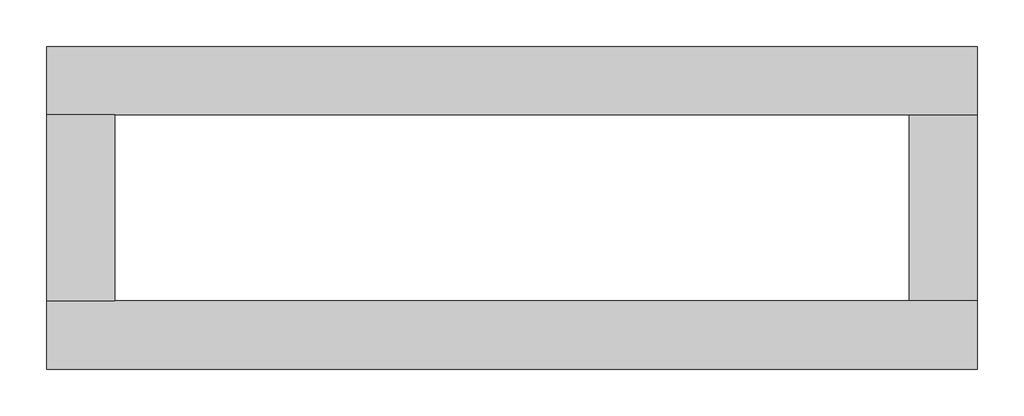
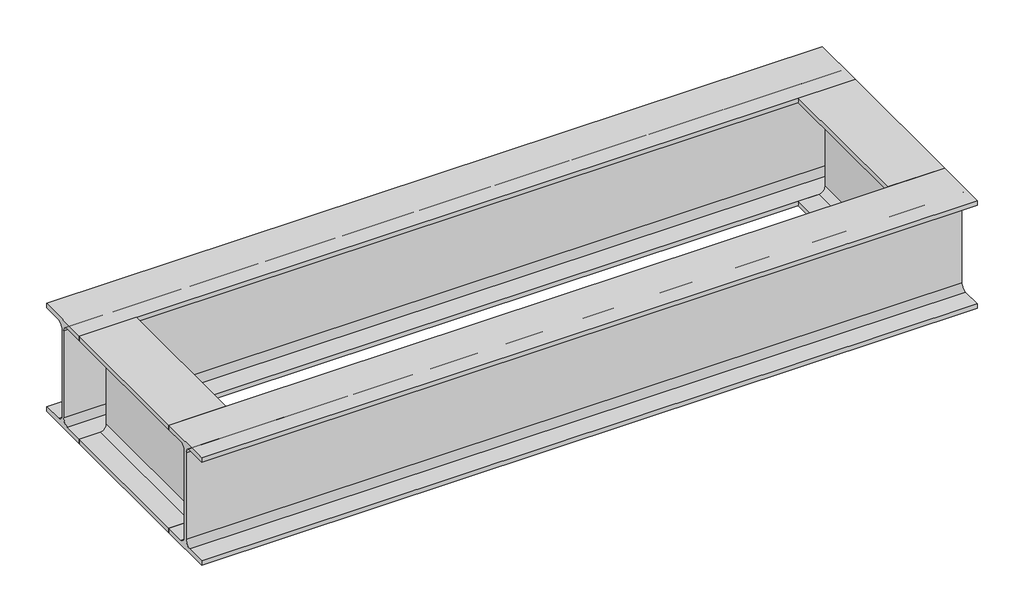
# One storey: 4 beams.
"""IFC4 building model written with IfcOpenShell, lengths in millimetres."""

from ifc_helpers import new_model, si_unit, origin, place, context, project, spatial, transform, mapped, element, save
from components import ipe_ipe220_c6260abe, ipe_ipe220_3578c7fd

model = new_model("IFC4")

# Units and contexts
model_context = context("Model", 3, world=origin())
ifc_project = project(units=[si_unit("LENGTHUNIT", "METRE", prefix="MILLI")], contexts=[model_context])

# Site, building, storey
site = spatial("IfcSite", under=ifc_project)
building = spatial("IfcBuilding", under=site)
storey = spatial("IfcBuildingStorey", under=building, Name="Cabeza_Plares", Elevation=-130.0)

# Beams
placement = place(None, origin())
ipe_ipe220_shape = ipe_ipe220_c6260abe(model_context)
element("IfcBeam", 1, ObjectType="IPE : IPE220", at=placement, inside=storey, context=model_context, shape_type="MappedRepresentation", body=[
    mapped(ipe_ipe220_shape, transform((55.0, 250.0, -140.0), x_axis=(0.0, 1.0, 0.0), y_axis=(-1.0, 0.0, 0.0), z_axis=(0.0, 0.0, 1.0))),
])
element("IfcBeam", 2, ObjectType="IPE : IPE220", at=placement, inside=storey, context=model_context, shape_type="MappedRepresentation", body=[
    mapped(ipe_ipe220_shape, transform((1445.0, 250.0, -140.0), x_axis=(0.0, 1.0, 0.0), y_axis=(-1.0, 0.0, 0.0), z_axis=(0.0, 0.0, 1.0))),
])
ipe_ipe220_2_shape = ipe_ipe220_3578c7fd(model_context)
element("IfcBeam", 3, ObjectType="IPE : IPE220", at=placement, inside=storey, context=model_context, shape_type="MappedRepresentation", body=[
    mapped(ipe_ipe220_2_shape, transform((750.0, 455.0, -140.0), x_axis=(1.0, 0.0, 0.0), y_axis=(0.0, 1.0, 0.0), z_axis=(0.0, 0.0, 1.0))),
])
element("IfcBeam", 4, ObjectType="IPE : IPE220", at=placement, inside=storey, context=model_context, shape_type="MappedRepresentation", body=[
    mapped(ipe_ipe220_2_shape, transform((750.0, 45.0, -140.0), x_axis=(1.0, 0.0, 0.0), y_axis=(0.0, 1.0, 0.0), z_axis=(0.0, 0.0, 1.0))),
])

save(model, "model.ifc")
